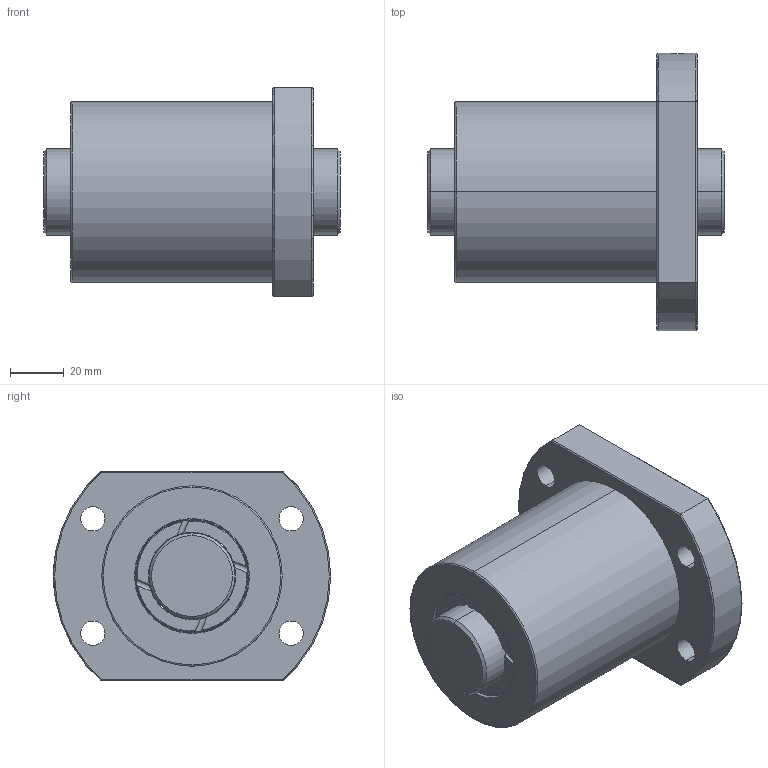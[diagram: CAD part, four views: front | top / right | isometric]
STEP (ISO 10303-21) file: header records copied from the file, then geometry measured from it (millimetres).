
FILE_DESCRIPTION (( 'STEP AP203' ), '1' );
FILE_NAME ('SFBR03210T4D.STEP', '2020-06-17T09:03:51', ( '' ), ( '' ), 'SwSTEP 2.0', 'SolidWorks 2013', '' );
FILE_SCHEMA (( 'CONFIG_CONTROL_DESIGN' ));
Length unit declared in the file: millimetre
Products named in the file (1): SFBR03210T4D
Bounding box: 110 x 103 x 78 mm (x, y, z)
Volume: 371184 mm3; surface area: 61129.5 mm2
Topology: 2 solids, 2 shells, 104 faces, 256 edges, 160 vertices
Faces by surface type: cylinder 50, plane 26, torus 24, cone 4
Entity records: 3987 total; most frequent: CARTESIAN_POINT 1439, DIRECTION 530, ORIENTED_EDGE 512, EDGE_CURVE 256, AXIS2_PLACEMENT_3D 231, VERTEX_POINT 160, CIRCLE 126, EDGE_LOOP 122
